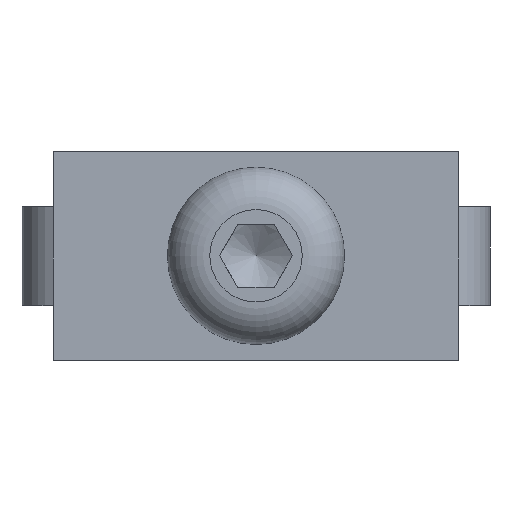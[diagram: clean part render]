
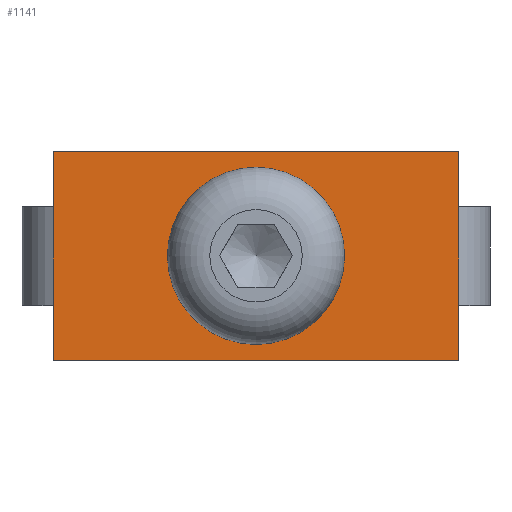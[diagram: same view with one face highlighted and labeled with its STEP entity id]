
A CAD part, top view. The second image highlights one B-rep face of the part: STEP entity #1141.
In plain terms, the highlighted planar face has unit normal (0, 0, 1).
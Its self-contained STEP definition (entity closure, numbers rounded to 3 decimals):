
#165=CARTESIAN_POINT('',(-16.0,-3.9,1.8));
#166=VERTEX_POINT('',#165);
#474=CARTESIAN_POINT('',(-16.0,3.9,1.8));
#475=VERTEX_POINT('',#474);
#485=CARTESIAN_POINT('',(-16.0,-3.9,1.8));
#486=DIRECTION('',(0.0,1.0,0.0));
#487=VECTOR('',#486,7.8);
#488=LINE('',#485,#487);
#489=EDGE_CURVE('',#166,#475,#488,.T.);
#539=CARTESIAN_POINT('',(-16.0,-8.25,1.8));
#540=VERTEX_POINT('',#539);
#547=CARTESIAN_POINT('',(-16.0,-8.25,1.8));
#548=DIRECTION('',(0.0,1.0,0.0));
#549=VECTOR('',#548,4.35);
#550=LINE('',#547,#549);
#551=EDGE_CURVE('',#540,#166,#550,.T.);
#571=CARTESIAN_POINT('',(16.0,-3.9,1.8));
#572=VERTEX_POINT('',#571);
#863=CARTESIAN_POINT('',(16.0,3.9,1.8));
#864=VERTEX_POINT('',#863);
#872=CARTESIAN_POINT('',(16.0,3.9,1.8));
#873=DIRECTION('',(0.0,-1.0,0.0));
#874=VECTOR('',#873,7.8);
#875=LINE('',#872,#874);
#876=EDGE_CURVE('',#864,#572,#875,.T.);
#982=CARTESIAN_POINT('',(16.0,-8.25,1.8));
#983=VERTEX_POINT('',#982);
#984=CARTESIAN_POINT('',(16.0,-3.9,1.8));
#985=DIRECTION('',(0.0,-1.0,0.0));
#986=VECTOR('',#985,4.35);
#987=LINE('',#984,#986);
#988=EDGE_CURVE('',#572,#983,#987,.T.);
#1029=CARTESIAN_POINT('',(4.1,0.0,1.8));
#1030=VERTEX_POINT('',#1029);
#1031=CARTESIAN_POINT('',(0.0,0.0,1.8));
#1032=DIRECTION('',(0.0,0.0,-1.0));
#1033=DIRECTION('',(1.0,0.0,0.0));
#1034=AXIS2_PLACEMENT_3D('',#1031,#1032,#1033);
#1035=CIRCLE('',#1034,4.1);
#1036=EDGE_CURVE('',#1030,#1030,#1035,.T.);
#1048=CARTESIAN_POINT('',(16.0,8.25,1.8));
#1049=VERTEX_POINT('',#1048);
#1056=CARTESIAN_POINT('',(16.0,8.25,1.8));
#1057=DIRECTION('',(0.0,-1.0,0.0));
#1058=VECTOR('',#1057,4.35);
#1059=LINE('',#1056,#1058);
#1060=EDGE_CURVE('',#1049,#864,#1059,.T.);
#1070=CARTESIAN_POINT('',(16.0,-8.25,1.8));
#1071=DIRECTION('',(-1.0,0.0,0.0));
#1072=VECTOR('',#1071,32.0);
#1073=LINE('',#1070,#1072);
#1074=EDGE_CURVE('',#983,#540,#1073,.T.);
#1088=CARTESIAN_POINT('',(-16.0,8.25,1.8));
#1089=VERTEX_POINT('',#1088);
#1090=CARTESIAN_POINT('',(-16.0,3.9,1.8));
#1091=DIRECTION('',(0.0,1.0,0.0));
#1092=VECTOR('',#1091,4.35);
#1093=LINE('',#1090,#1092);
#1094=EDGE_CURVE('',#475,#1089,#1093,.T.);
#1111=CARTESIAN_POINT('',(-16.0,8.25,1.8));
#1112=DIRECTION('',(1.0,0.0,0.0));
#1113=VECTOR('',#1112,32.0);
#1114=LINE('',#1111,#1113);
#1115=EDGE_CURVE('',#1089,#1049,#1114,.T.);
#1123=CARTESIAN_POINT('',(0.0,0.,1.8));
#1124=DIRECTION('',(0.0,0.0,1.0));
#1125=DIRECTION('',(1.0,0.0,0.0));
#1126=AXIS2_PLACEMENT_3D('',#1123,#1124,#1125);
#1127=PLANE('',#1126);
#1128=ORIENTED_EDGE('',*,*,#1060,.F.);
#1129=ORIENTED_EDGE('',*,*,#1115,.F.);
#1130=ORIENTED_EDGE('',*,*,#1094,.F.);
#1131=ORIENTED_EDGE('',*,*,#489,.F.);
#1132=ORIENTED_EDGE('',*,*,#551,.F.);
#1133=ORIENTED_EDGE('',*,*,#1074,.F.);
#1134=ORIENTED_EDGE('',*,*,#988,.F.);
#1135=ORIENTED_EDGE('',*,*,#876,.F.);
#1136=EDGE_LOOP('',(#1128,#1129,#1130,#1131,#1132,#1133,#1134,#1135));
#1137=FACE_OUTER_BOUND('',#1136,.T.);
#1138=ORIENTED_EDGE('',*,*,#1036,.T.);
#1139=EDGE_LOOP('',(#1138));
#1140=FACE_BOUND('',#1139,.T.);
#1141=ADVANCED_FACE('',(#1137,#1140),#1127,.T.);
